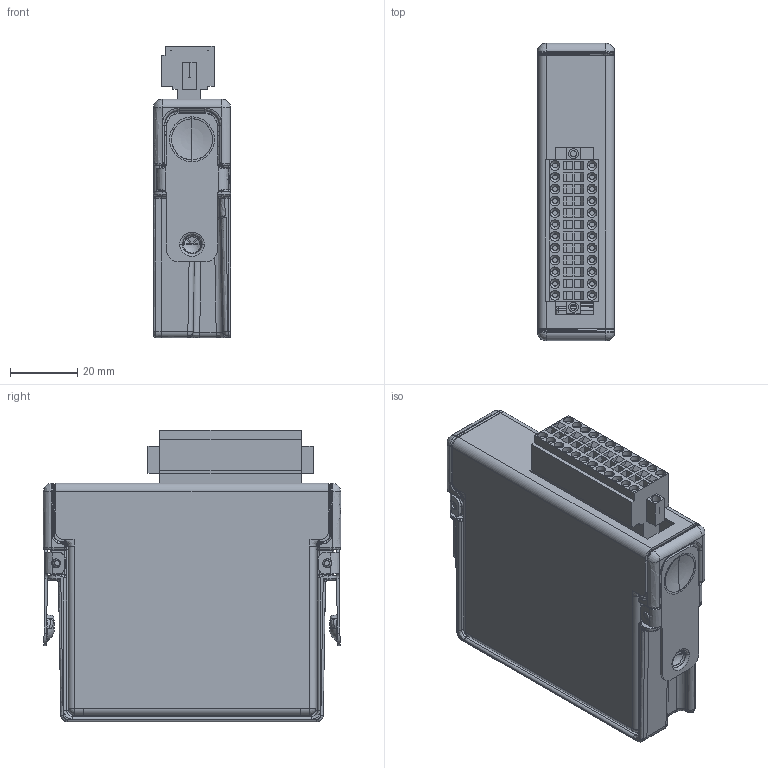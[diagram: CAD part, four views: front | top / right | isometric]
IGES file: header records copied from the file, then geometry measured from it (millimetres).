
Start section:  PTC IGES file: cd_ni-9235-6.igs
Global section: file name: cd_ni-9235-6.igs; native system: Pro/ENGINEER by Parametric Technology Corporation; preprocessor: 2006300; author: scarrasc; organization: Unknown; date: 20080821.105021; units: inch
Bounding box: 22.86 x 88.11 x 86.38 mm (x, y, z)
Surface area: 47126.7 mm2 (no closed solid volume)
Topology: 0 solids, 0 shells, 1638 faces, 7600 edges, 7568 vertices
Faces by surface type: bspline 1003, revolution 629, extrusion 6
